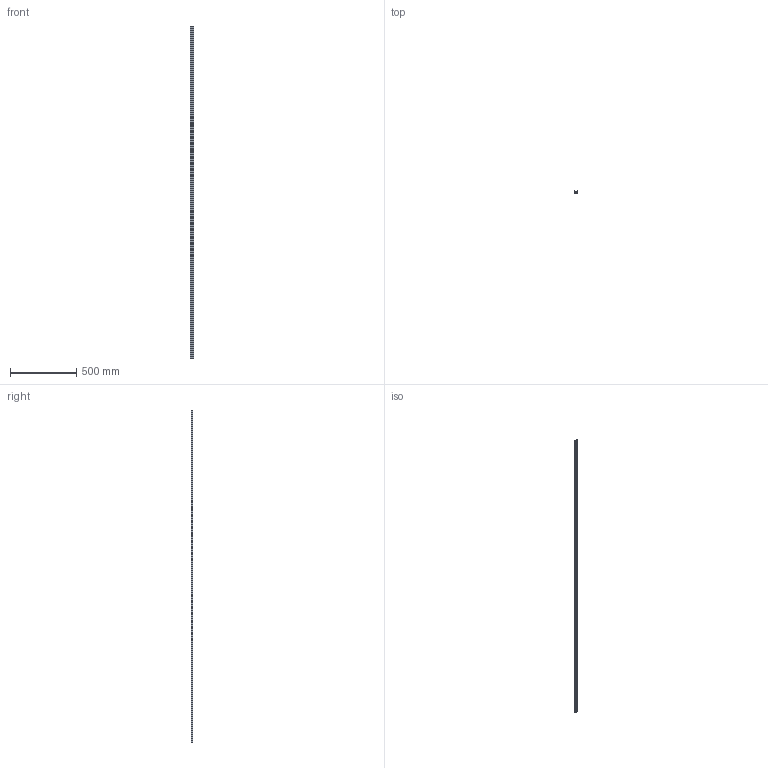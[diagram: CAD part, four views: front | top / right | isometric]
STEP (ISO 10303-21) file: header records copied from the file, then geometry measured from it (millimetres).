
FILE_DESCRIPTION(/* description */ (''),/* implementation_level */ '2;1');
FILE_NAME(/* name */ '6113010 Venice Mini_sldprt.stp',/* time_stamp */ '2019-06-11T12:37:50+02:00',/* author */ (''),/* organization */ (''),/* preprocessor_version */ 'ST-DEVELOPER v16.7',/* originating_system */ 'SIEMENS PLM Software NX 12.0',/* authorisation */ '');
FILE_SCHEMA (('AUTOMOTIVE_DESIGN { 1 0 10303 214 3 1 1 1 }'));
Length unit declared in the file: millimetre
Products named in the file (1): p.sc21B4B528x4aa
Bounding box: 26 x 10.75 x 2500 mm (x, y, z)
Volume: 189941.8 mm3; surface area: 254001 mm2
Topology: 1 solids, 1 shells, 73 faces, 213 edges, 142 vertices
Faces by surface type: plane 42, cylinder 31
Entity records: 2461 total; most frequent: CARTESIAN_POINT 429, ORIENTED_EDGE 426, DIRECTION 423, EDGE_CURVE 213, LINE 151, VECTOR 151, VERTEX_POINT 142, AXIS2_PLACEMENT_3D 136
